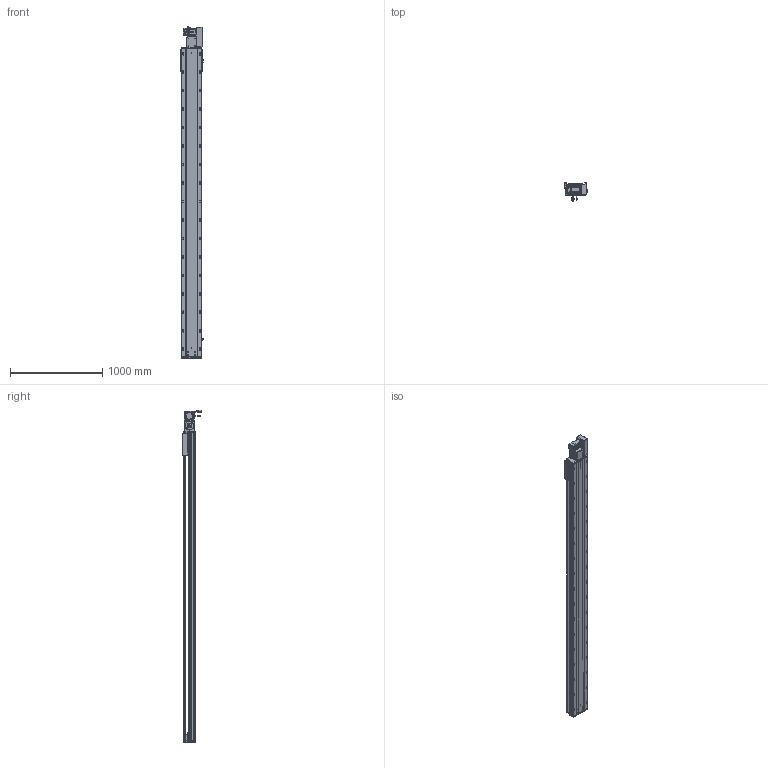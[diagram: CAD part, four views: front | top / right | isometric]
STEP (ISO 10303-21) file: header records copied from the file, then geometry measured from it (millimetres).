
FILE_DESCRIPTION (( 'STEP AP203' ), '1' );
FILE_NAME ('RY220-T-300-RK.SLDASM_3000.step', '2022-07-25T08:25:49', ( '' ), ( '' ), 'SwSTEP 2.0', 'SolidWorks 2016', '' );
FILE_SCHEMA (( 'CONFIG_CONTROL_DESIGN' ));
Length unit declared in the file: millimetre
Products named in the file (14): 覜茼ん672; RY220翋肮祭謫裔啣; RY220-T-蛌殏萇儂假蚾啣(750W); RY220-T-300-奻裔啣_3000; RY220圉猾敕々湍臏賑輸; RY220-同步轮副支撑座6304×2; RY220-俋离672覜茼んえ; RY220翋肮祭謫釱; 110A-T-肮祭謫釱傷裔; 怢湛750W_ECMA-CX0807ES; RY220-T-300-RK.SLDASM_3000; 滅袉蝶18-15; RY220-T菁釱-300_3000; RY220-T-湍謫欶(鍼踢)
Assembly tree (18 placements, depth 2):
  RY220-T-300-RK.SLDASM_3000
    RY220-T菁釱-300_3000
    RY220翋肮祭謫釱
    覜茼ん672  x3
    RY220圉猾敕々湍臏賑輸
    RY220-T-300-奻裔啣_3000
    RY220-俋离672覜茼んえ
    滅袉蝶18-15  x3
    RY220翋肮祭謫裔啣  x2
    110A-T-肮祭謫釱傷裔
    怢湛750W_ECMA-CX0807ES
    RY220-T-湍謫欶(鍼踢)
    RY220-T-蛌殏萇儂假蚾啣(750W)
    RY220-同步轮副支撑座6304×2
Bounding box: 238.7 x 198.77 x 3595.24 mm (x, y, z)
Volume: 25205247.5 mm3; surface area: 7798765.6 mm2
Topology: 19 solids, 19 shells, 3028 faces, 8375 edges, 5240 vertices
Faces by surface type: cylinder 1496, plane 1069, cone 381, bspline 56, sphere 16, torus 10
Entity records: 100931 total; most frequent: CARTESIAN_POINT 28435, ORIENTED_EDGE 14970, DIRECTION 14476, EDGE_CURVE 7485, AXIS2_PLACEMENT_3D 5230, VERTEX_POINT 4864, VECTOR 4016, LINE 4016
